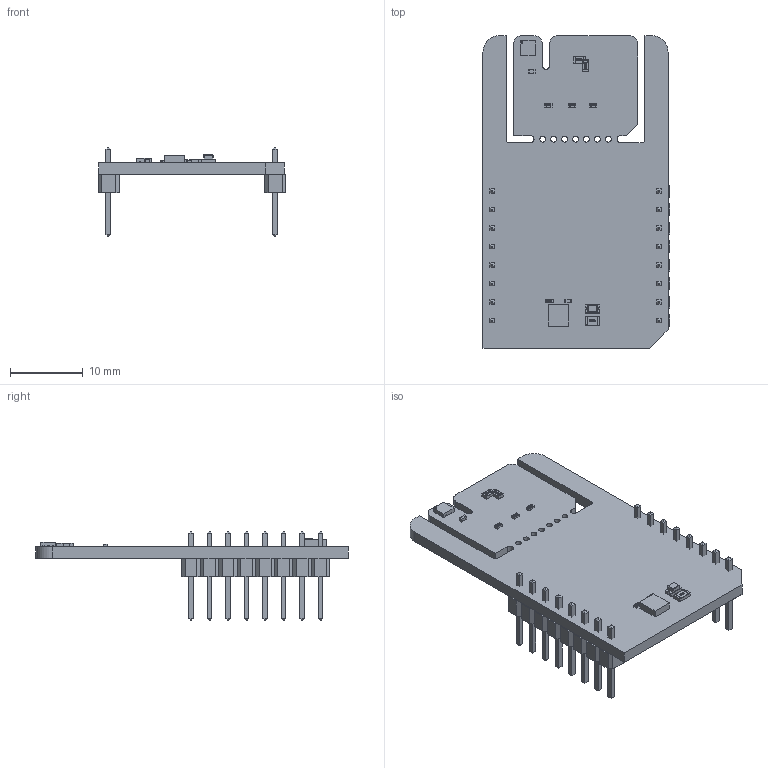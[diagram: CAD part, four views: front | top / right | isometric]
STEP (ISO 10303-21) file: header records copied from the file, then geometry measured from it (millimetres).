
FILE_DESCRIPTION(('Open CASCADE Model'),'2;1');
FILE_NAME('Open CASCADE Shape Model','2026-01-15T14:11:26',('Author'),( 'Open CASCADE'),'Open CASCADE STEP processor 6.8','Open CASCADE 6.8' ,'Unknown');
FILE_SCHEMA(('AUTOMOTIVE_DESIGN { 1 0 10303 214 1 1 1 1 }'));
Length unit declared in the file: millimetre
Products named in the file (29): PCB; Board; U2; OPT3001DNPT; R6; User_Library-R_0603; R5; User_Library-R_0402; R4; R3; C2; User_Library-SMD_CAPACITOR0402; MBD1; Header_1x8; Free-Models; 1240637040; User_Library-PinHeaderX5-1_PinHeaderX5_Body_1; User_Library-PinHeaderX5-1_PinHeaderX5_Pins_1; U1; 1139744920; Extruded; C1; R2; LD1; led_0805_green; R1; User_Library-R_0805; JP1
Assembly tree (35 placements, depth 7):
  PCB
    Board
    U2
      OPT3001DNPT
    R6
      User_Library-R_0603
    R5
      User_Library-R_0402
    R4
      User_Library-R_0402
    R3
      User_Library-R_0402
    C2
      User_Library-SMD_CAPACITOR0402
    MBD1
      Header_1x8  x2
        PCB
          Free-Models
            1240637040  x2
              User_Library-PinHeaderX5-1_PinHeaderX5_Body_1
              User_Library-PinHeaderX5-1_PinHeaderX5_Pins_1
    U1
      1139744920
        Extruded
    C1
      User_Library-SMD_CAPACITOR0402
    R2
      User_Library-R_0402
    LD1
      led_0805_green
    R1
      User_Library-R_0805
    JP1
      User_Library-R_0603
Bounding box: 25.78 x 42.93 x 12.19 mm (x, y, z)
Volume: 2134.3 mm3; surface area: 3858.6 mm2
Topology: 54 solids, 54 shells, 1465 faces, 3685 edges, 2370 vertices
Faces by surface type: plane 1126, bspline 236, cylinder 83, sphere 20
Full cylindrical faces by diameter (mm): 0.8 x7
Entity records: 31497 total; most frequent: CARTESIAN_POINT 10961, ORIENTED_EDGE 3598, DIRECTION 2995, EDGE_CURVE 1799, LINE 1435, VECTOR 1435, VERTEX_POINT 1174, AXIS2_PLACEMENT_3D 780
